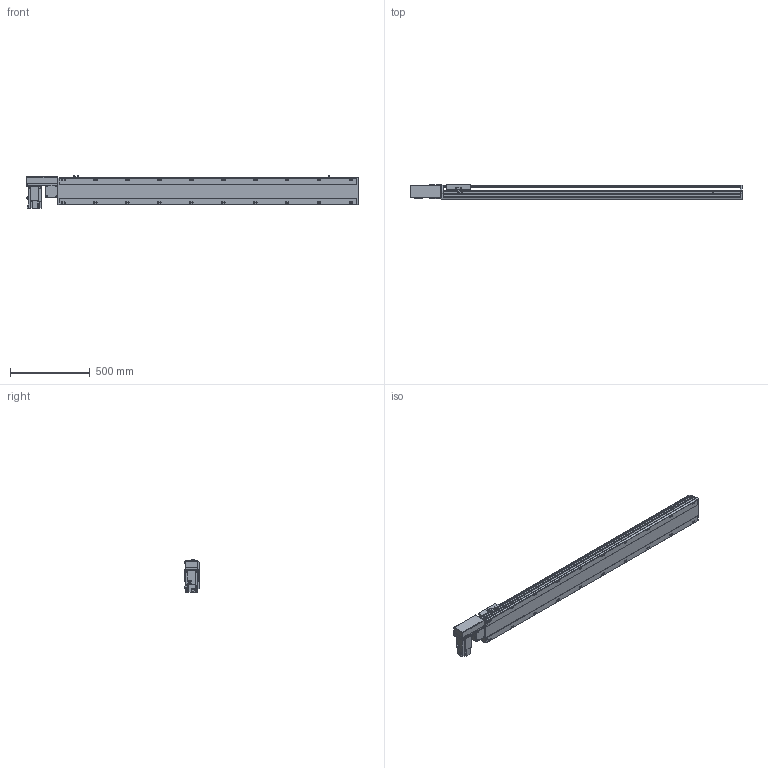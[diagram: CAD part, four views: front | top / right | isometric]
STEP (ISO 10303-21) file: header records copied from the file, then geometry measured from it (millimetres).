
FILE_DESCRIPTION( ( 'STEP AP214' ), '1' );
FILE_NAME( 'x:/temp/worker_4/temp/exporttempdir_2248_271_uGofS/format_0/PBS170-P40-S1600-R-T75-C1-N(0).stp', '2022-06-07T07:30:52', ( 'License CC BY-ND 4.0' ), ( 'CADENAS' ), ' ', 'PARTsolutions', ' ' );
FILE_SCHEMA( ( 'AUTOMOTIVE_DESIGN { 1 0 10303 214 1 1 1 1 }' ) );
Length unit declared in the file: millimetre
Products named in the file (7): PBS170-P40-S1600-R-T75-C1-N(0); _PBS170-S1600()_body; _PBS170T-R_motors; _T75-p1; _PBS170_sliser; _PBS170_plant; _PBS170_sensor
Assembly tree (8 placements, depth 2):
  PBS170-P40-S1600-R-T75-C1-N(0)
    _PBS170-S1600()_body
    _PBS170T-R_motors
    _T75-p1
    _PBS170_sliser
    _PBS170_plant
    _PBS170_sensor  x3
Bounding box: 2078 x 97 x 205.3 mm (x, y, z)
Volume: 15267845.6 mm3; surface area: 1955094.3 mm2
Topology: 8 solids, 8 shells, 1114 faces, 2955 edges, 1926 vertices
Faces by surface type: plane 699, cylinder 355, cone 50, sphere 8, torus 2
Full cylindrical faces by diameter (mm): 3.242 x4, 4 x2, 4.4 x4, 4.5 x6, 4.917 x4, 6 x9, 6.647 x28, 7 x2, 7.5 x4, 8 x8, 8.5 x20, 10 x4, 10.5 x20, 11 x2, 30 x2, 40 x1, 70 x1
Entity records: 41024 total; most frequent: CARTESIAN_POINT 6557, DIRECTION 5440, ORIENTED_EDGE 5148, EDGE_CURVE 2574, AXIS2_PLACEMENT_3D 1897, VERTEX_POINT 1778, LINE 1646, VECTOR 1646
